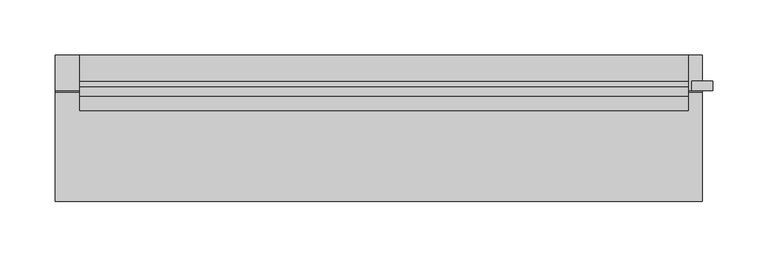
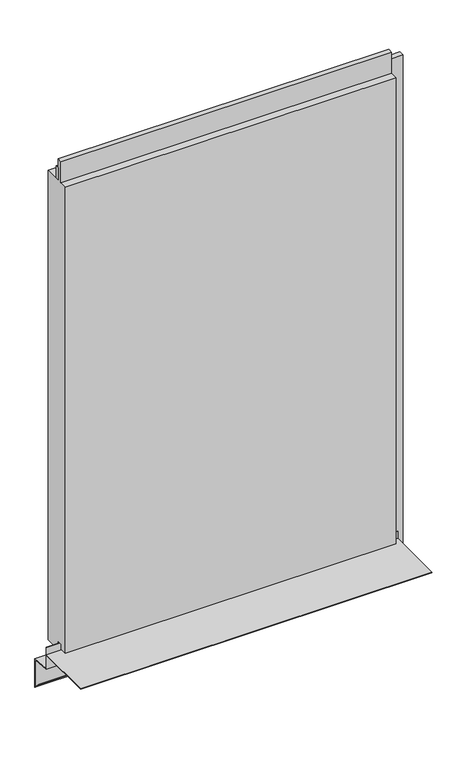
"""IFC4 building model written with IfcOpenShell, lengths in millimetres: plate geometry, Trimo_Qbiss Screen_Normal Panel-HORIZONTAL : HR - B."""

from ifc_helpers import new_model, si_unit, frame, origin, place, context, project, spatial, polyline, outline, extrude, source, transform, mapped, element, save


def plate_f3a990c7(model_context):
    return source(origin(), model_context, "Body", "SweptSolid", [
        extrude(outline(polyline([(66.7, 14.0835797), (67.5, 14.0835797), (67.5, -23.0), (100.0, -25.8433816), (100.0, -76.0), (87.1509533, -63.1509533), (87.7166388, -62.5852679), (99.2, -74.0686292), (99.2, -26.5764465), (66.7, -23.7330649), (66.7, 1.0), (-32.5, 1.0), (-32.5, 1.8), (66.7, 1.8), (66.7, 14.0835797)])), frame((-274.2049816, 0.0, 0.0), z_axis=(1.0, 0.0, 0.0), x_axis=(0.0, 1.0, 0.0)), (0.0, 0.0, 1.0), 585.4099631),
        extrude(outline(polyline([(301.7049816, 67.8978162), (301.7049816, 76.5978162), (320.7049816, 76.5978162), (320.7049816, 67.8978162), (301.7049816, 67.8978162)])), frame((0.0, 0.0, -20.0), z_axis=(0.0, 0.0, 1.0), x_axis=(1.0, 0.0, 0.0)), (0.0, 0.0, 1.0), 869.0),
        extrude(outline(polyline([(298.7049816, 76.0), (298.7049816, 71.0), (-252.2049816, 71.0), (-252.2049816, 76.0), (298.7049816, 76.0)])), frame((0.0, 0.0, 828.0), z_axis=(0.0, 0.0, 1.0), x_axis=(1.0, 0.0, 0.0)), (0.0, 0.0, 1.0), 21.0),
        extrude(outline(polyline([(71.0, 827.0), (100.0, 827.0), (100.0, 0.0), (72.0, 0.0), (72.0, 15.5), (62.0, 15.5), (62.0, 7.0), (50.0, 7.0), (50.0, 827.0), (63.0, 827.0), (63.0, 864.5), (71.0, 864.5), (71.0, 827.0)])), frame((-252.2049816, 0.0, 0.0), z_axis=(1.0, 0.0, 0.0), x_axis=(0.0, 1.0, 0.0)), (0.0, 0.0, 1.0), 550.9099631),
    ])


if __name__ == "__main__":
    model = new_model("IFC4")
    model_context = context("Model", 3, world=origin())
    ifc_project = project(units=[si_unit("LENGTHUNIT", "METRE", prefix="MILLI")], contexts=[model_context])
    site = spatial("IfcSite", under=ifc_project)
    building = spatial("IfcBuilding", under=site)
    placement = place(None, origin())
    plate_shape = plate_f3a990c7(model_context)
    element("IfcPlate", 1, ObjectType="Trimo_Qbiss Screen_Normal Panel-HORIZONTAL : HR - B", at=placement, inside=building, context=model_context, shape_type="MappedRepresentation", body=[
        mapped(plate_shape, transform((0.0, 0.0, 0.0), x_axis=(1.0, 0.0, 0.0), y_axis=(0.0, 1.0, 0.0), z_axis=(0.0, 0.0, 1.0))),
    ])
    save(model, "model.ifc")
